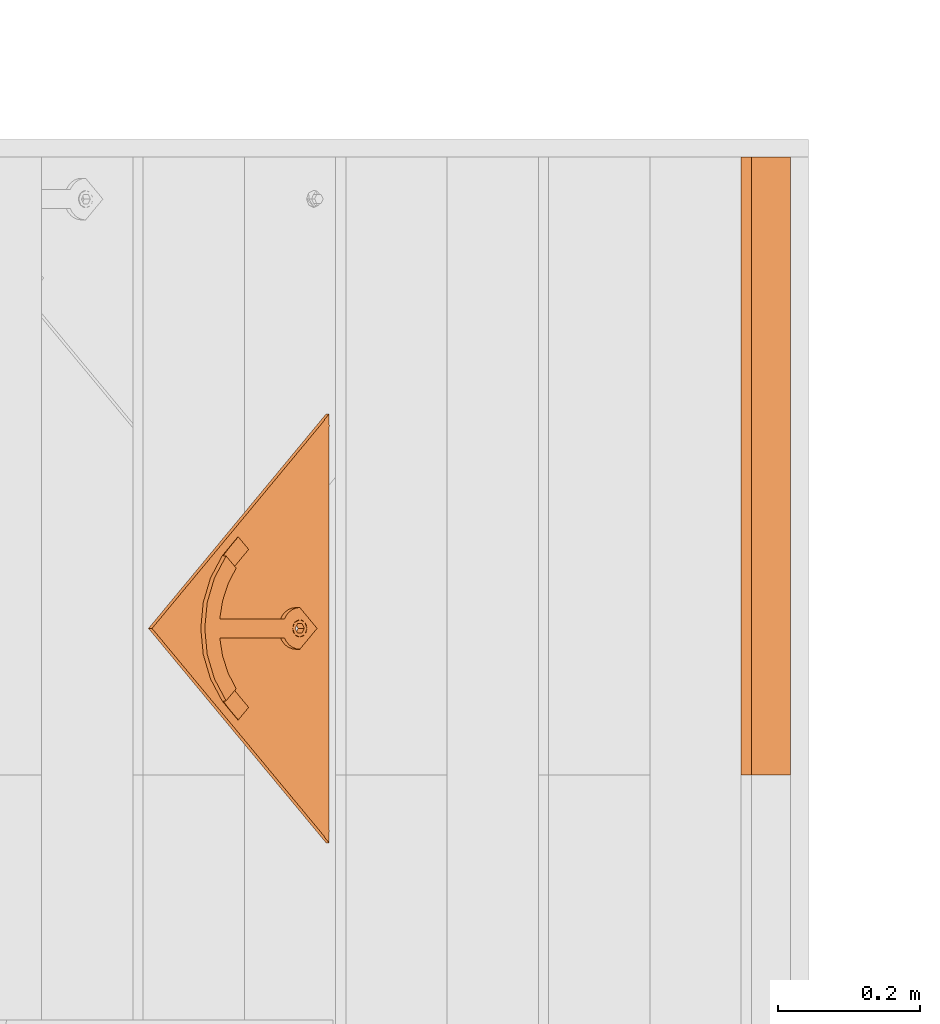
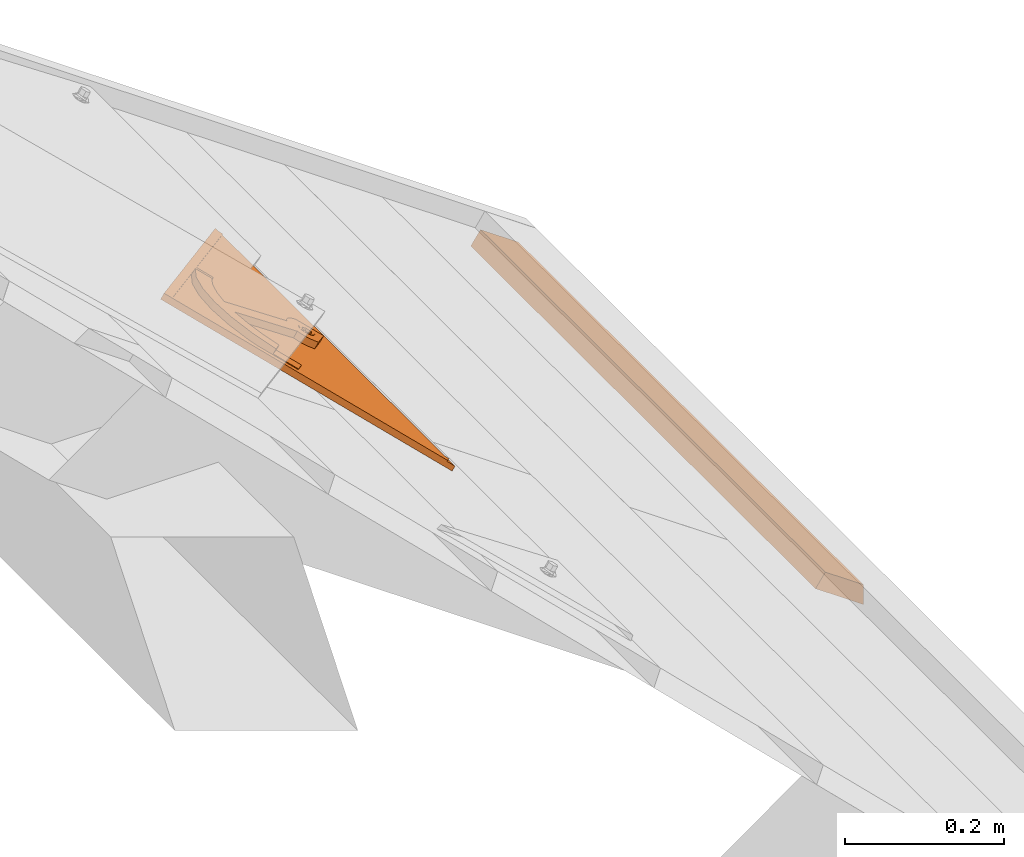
# One storey, part 122 of 133: 2 proxies, 1 element without a shape of its own.
"""IFC2X3 building model written with IfcOpenShell, lengths in millimetres."""

from ifc_helpers import new_model, entity, si_unit, converted_unit, derived_unit, direction, frame, origin, place, context, subcontext, project, spatial, polyline, outline, extrude, faceted_brep, source, transform, mapped, material, material_list, type_object, type_shapes, element, aggregate, save


model = new_model("IFC2X3")

# Units and contexts
model_context = context("Model", 3, precision=0.01, world=origin(), true_north=direction((6.12303176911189e-17, 1.0)))
body_context = subcontext(model_context, "Body", "Model", "MODEL_VIEW")
ifc_project = project(units=[si_unit("LENGTHUNIT", "METRE", prefix="MILLI"), si_unit("AREAUNIT", "SQUARE_METRE"), si_unit("VOLUMEUNIT", "CUBIC_METRE"), converted_unit("PLANEANGLEUNIT", "DEGREE", entity("IfcRatioMeasure", 0.0174532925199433), si_unit("PLANEANGLEUNIT", "RADIAN"), dimensions=[0, 0, 0, 0, 0, 0, 0]), si_unit("MASSUNIT", "GRAM", prefix="KILO"), derived_unit("MASSDENSITYUNIT", [(si_unit("MASSUNIT", "GRAM", prefix="KILO"), 1), (si_unit("LENGTHUNIT", "METRE"), -3)]), si_unit("TIMEUNIT", "SECOND"), si_unit("FREQUENCYUNIT", "HERTZ"), si_unit("THERMODYNAMICTEMPERATUREUNIT", "DEGREE_CELSIUS"), derived_unit("THERMALTRANSMITTANCEUNIT", [(si_unit("MASSUNIT", "GRAM", prefix="KILO"), 1), (si_unit("THERMODYNAMICTEMPERATUREUNIT", "KELVIN"), -1), (si_unit("TIMEUNIT", "SECOND"), -3)]), derived_unit("VOLUMETRICFLOWRATEUNIT", [(si_unit("LENGTHUNIT", "METRE"), 3), (si_unit("TIMEUNIT", "SECOND"), -1)]), si_unit("ELECTRICCURRENTUNIT", "AMPERE"), si_unit("ELECTRICVOLTAGEUNIT", "VOLT"), si_unit("POWERUNIT", "WATT"), si_unit("FORCEUNIT", "NEWTON", prefix="KILO"), si_unit("ILLUMINANCEUNIT", "LUX"), si_unit("LUMINOUSFLUXUNIT", "LUMEN"), si_unit("LUMINOUSINTENSITYUNIT", "CANDELA"), derived_unit("USERDEFINED", [(si_unit("MASSUNIT", "GRAM", prefix="KILO"), -1), (si_unit("LENGTHUNIT", "METRE"), -2), (si_unit("TIMEUNIT", "SECOND"), 3), (si_unit("LUMINOUSFLUXUNIT", "LUMEN"), 1)]), derived_unit("LINEARVELOCITYUNIT", [(si_unit("LENGTHUNIT", "METRE"), 1), (si_unit("TIMEUNIT", "SECOND"), -1)]), si_unit("PRESSUREUNIT", "PASCAL"), derived_unit("USERDEFINED", [(si_unit("LENGTHUNIT", "METRE"), -2), (si_unit("MASSUNIT", "GRAM", prefix="KILO"), 1), (si_unit("TIMEUNIT", "SECOND"), -2)])], contexts=[model_context])

# Site, building, storey
site_placement = place(None, origin())
site = spatial("IfcSite", under=ifc_project, at=site_placement, Name="Default", CompositionType="ELEMENT")
building_placement = place(site_placement, origin())
building = spatial("IfcBuilding", under=site, at=building_placement, CompositionType="ELEMENT")
storey_placement = place(building_placement, origin())
storey = spatial("IfcBuildingStorey", under=building, at=storey_placement, Name="Level 1", CompositionType="ELEMENT", Elevation=0.0)

# Assembly, proxy
assembly_placement = place(storey_placement, origin())
assembly = element("IfcElementAssembly", 1, at=assembly_placement, inside=storey, Name="Structural Framing Assembly:Roof Construction Assembly", ObjectType="Structural Framing Assembly:Roof Construction Assembly", AssemblyPlace="NOTDEFINED", PredefinedType="USERDEFINED")
ifc_material_1 = material(Name="Wood - Generic - Wood For Showcase")
building_element_proxy_type_1 = type_object("IfcBuildingElementProxyType", Name="Structural Framing 15", PredefinedType="NOTDEFINED", material=ifc_material_1)
shared_shape_1 = source(origin(), body_context, "Body", "SweptSolid", [
    extrude(outline(polyline([(-12.4999999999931, -38.2231230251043), (12.4999999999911, -38.2231230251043), (12.4999999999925, 29.4705287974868), (-12.499999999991, 46.975717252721), (-12.4999999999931, -38.2231230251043)])), frame((5101.25878028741, -6581.94919785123, 88.3155178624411), z_axis=(0.0, 1.0, 0.0), x_axis=(0.573576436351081, 0.0, 0.819152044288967)), (0.0, 0.0, 1.0), 869.999999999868),
])
type_shapes(building_element_proxy_type_1, [shared_shape_1])
proxy_1_placement = place(assembly_placement, frame((0.0, 9637.49999999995, 0.0)))
proxy_1 = element("IfcBuildingElementProxy", 2, at=proxy_1_placement, type_object=building_element_proxy_type_1, material=ifc_material_1, Name="Structural Framing 294:Structural Framing 15", ObjectType="Structural Framing 294:Structural Framing 15", context=body_context, shape_type="MappedRepresentation", body=[
    mapped(shared_shape_1, transform((0.0, 0.0, 0.0), scale=1.0)),
])
aggregate(assembly, [proxy_1])

# Proxy
ifc_material_2 = material(Name="Rubber - Sunstyle - Black")
ifc_material_3 = material(Name="Glass - Sunstyle - Tainted Black")
ifc_material_list_1 = material_list([ifc_material_2, ifc_material_3])
ifc_material_list_2 = material_list([ifc_material_2, ifc_material_3])
building_element_proxy_type_2 = type_object("IfcBuildingElementProxyType", Name="Shingle Bottom Small - Black", PredefinedType="NOTDEFINED", material=ifc_material_list_2)
shared_shape_2 = source(origin(), body_context, "Body", "Brep", [
    faceted_brep([(302.08842791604, 44.9093317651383, 22.0558382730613), (302.08842791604, 49.408700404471, 21.980485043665), (293.484723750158, 48.4726030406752, 21.9961623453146), (310.692132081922, 48.4726030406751, 21.9961623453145), (308.728656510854, 53.2419006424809, 21.9162884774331), (314.255903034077, 57.0751008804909, 21.8520919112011), (308.728656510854, 60.9083011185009, 21.7878953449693), (310.692132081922, 65.6775987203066, 21.7080214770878), (302.08842791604, 64.7415013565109, 21.7236987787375), (302.08842791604, 69.2408699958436, 21.6483455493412), (293.484723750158, 65.6775987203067, 21.708021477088), (295.448199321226, 60.908301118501, 21.7878953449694), (289.920952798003, 57.0751008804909, 21.8520919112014), (295.448199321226, 53.2419006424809, 21.9162884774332), (295.448199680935, 60.6403782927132, 5.79013870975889), (302.08842791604, 64.473578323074, 5.72594214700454), (295.448199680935, 52.9739782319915, 5.91853183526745), (302.08842791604, 49.1407782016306, 5.98272839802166), (308.728656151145, 52.9739782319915, 5.91853183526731), (308.728656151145, 60.6403782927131, 5.79013870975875), (293.484723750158, 48.2046804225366, 5.99840570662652), (302.08842791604, 44.6414091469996, 6.05808163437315), (289.920952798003, 56.8071782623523, 5.85433527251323), (293.484723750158, 65.4096761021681, 5.71026483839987), (302.08842791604, 68.972947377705, 5.65058891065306), (310.692132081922, 65.409676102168, 5.71026483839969), (314.255903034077, 56.8071782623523, 5.85433527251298), (310.692132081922, 48.2046804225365, 5.99840570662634)], [[[0, 1, 2]], [[1, 0, 3]], [[3, 4, 1]], [[4, 3, 5]], [[6, 4, 5]], [[5, 7, 6]], [[7, 8, 6]], [[8, 7, 9]], [[8, 9, 10]], [[10, 11, 8]], [[12, 11, 10]], [[2, 13, 12]], [[12, 13, 11]], [[13, 2, 1]], [[8, 11, 14, 15]], [[11, 13, 16, 14]], [[13, 1, 17, 16]], [[1, 4, 18, 17]], [[4, 6, 19, 18]], [[6, 8, 15, 19]], [[20, 17, 21]], [[17, 20, 16]], [[22, 16, 20]], [[14, 16, 22]], [[23, 14, 22]], [[15, 14, 23]], [[23, 24, 15]], [[24, 25, 15]], [[19, 15, 25]], [[19, 25, 26]], [[26, 18, 19]], [[26, 27, 18]], [[17, 18, 27]], [[27, 21, 17]], [[24, 23, 10, 9]], [[10, 23, 22, 12]], [[20, 21, 0, 2]], [[20, 2, 12, 22]], [[21, 27, 3, 0]], [[3, 27, 26, 5]], [[25, 24, 9, 7]], [[25, 7, 5, 26]]]),
    faceted_brep([(587.35835892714, 0.0, 12.5593198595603), (595.843045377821, 8.4846864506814, 12.4172224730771), (595.843045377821, 8.50980419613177, 13.9170121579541), (587.35835892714, 0.0251177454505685, 14.0591095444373), (302.088750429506, 285.189618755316, 7.7831033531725), (16.8191419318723, 0.0, 12.5593198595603), (8.33445548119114, 8.48468645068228, 12.4172224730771), (302.088750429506, 302.156612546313, 7.49894842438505), (302.088750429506, 302.181730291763, 8.9987381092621), (8.33445548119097, 8.50980419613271, 13.9170121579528), (16.8191419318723, 0.0251177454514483, 14.0591095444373), (302.088750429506, 285.214736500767, 9.28289303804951)], [[[0, 1, 2, 3]], [[1, 0, 4, 5, 6, 7]], [[2, 1, 7, 8]], [[3, 2, 8, 9, 10, 11]], [[0, 3, 11, 4]], [[5, 10, 9, 6]], [[8, 7, 6, 9]], [[4, 11, 10, 5]]]),
    faceted_brep([(302.088750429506, 302.156612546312, 7.49894842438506), (305.194256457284, 68.3255429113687, 11.4150370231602), (308.088427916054, 67.1269059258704, 11.4351112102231), (302.088427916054, 68.7343756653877, 11.4081900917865), (310.573709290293, 65.2201498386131, 11.4670446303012), (298.982599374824, 68.3255429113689, 11.4150370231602), (296.088427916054, 67.1269059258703, 11.4351112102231), (293.603146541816, 65.2201498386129, 11.4670446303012), (312.480732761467, 62.7352169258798, 11.5086610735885), (604.177500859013, 0.152567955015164, 12.5567647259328), (291.696123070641, 62.7352169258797, 11.5086610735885), (0.0, 0.152567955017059, 12.5567647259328), (290.497318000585, 59.8414512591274, 11.5571244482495), (290.088427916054, 56.7360581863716, 11.6091320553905), (290.497318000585, 53.6306651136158, 11.6611396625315), (291.696123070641, 50.7368994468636, 11.7096030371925), (293.603146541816, 48.2519665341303, 11.7512194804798), (296.088427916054, 46.3452104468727, 11.7831529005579), (298.982599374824, 45.1465734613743, 11.8032270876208), (302.088427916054, 44.7377407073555, 11.8100740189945), (313.679537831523, 59.8414512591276, 11.5571244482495), (314.088427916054, 56.7360581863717, 11.6091320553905), (313.679537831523, 53.6306651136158, 11.6611396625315), (312.480732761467, 50.7368994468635, 11.7096030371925), (310.573709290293, 48.2519665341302, 11.7512194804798), (308.088427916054, 46.3452104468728, 11.7831529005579), (305.194256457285, 45.1465734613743, 11.8032270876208), (0.0, 0.0269792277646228, 5.0578163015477), (290.088427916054, 56.6104694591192, 4.11018363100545), (290.497318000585, 53.5050763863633, 4.16219123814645), (290.497318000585, 59.7158625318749, 4.05817602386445), (291.696123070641, 50.6113107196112, 4.21065461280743), (291.696123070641, 62.6096281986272, 4.00971264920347), (302.088750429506, 302.031023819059, 0.0), (293.603146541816, 48.1263778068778, 4.25227105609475), (296.088427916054, 46.2196217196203, 4.28420447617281), (298.982599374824, 45.0209847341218, 4.30427866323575), (302.088427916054, 44.612151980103, 4.31112559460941), (604.177500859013, 0.0269792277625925, 5.05781630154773), (293.603146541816, 65.0945611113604, 3.96809620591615), (296.088427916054, 67.0013171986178, 3.93616278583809), (298.982599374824, 68.1999541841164, 3.91608859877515), (302.088427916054, 68.6087869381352, 3.90924166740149), (305.194256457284, 68.1999541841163, 3.91608859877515), (308.088427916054, 67.0013171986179, 3.93616278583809), (310.573709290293, 65.0945611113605, 3.96809620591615), (312.480732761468, 62.6096281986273, 4.00971264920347), (305.194256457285, 45.0209847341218, 4.30427866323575), (308.088427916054, 46.2196217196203, 4.28420447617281), (313.679537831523, 59.7158625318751, 4.05817602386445), (314.088427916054, 56.6104694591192, 4.11018363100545), (313.679537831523, 53.5050763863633, 4.16219123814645), (312.480732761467, 50.611310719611, 4.21065461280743), (310.573709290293, 48.1263778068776, 4.25227105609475)], [[[0, 1, 2]], [[1, 0, 3]], [[0, 2, 4]], [[5, 3, 0]], [[6, 5, 0]], [[0, 7, 6]], [[8, 0, 4]], [[0, 8, 9]], [[7, 0, 10]], [[0, 11, 10]], [[12, 10, 11]], [[11, 13, 12]], [[13, 11, 14]], [[15, 14, 11]], [[11, 16, 15]], [[17, 16, 11]], [[17, 11, 18]], [[19, 18, 11]], [[19, 11, 9]], [[9, 8, 20]], [[20, 21, 9]], [[21, 22, 9]], [[22, 23, 9]], [[9, 23, 24]], [[24, 25, 9]], [[25, 26, 9]], [[9, 26, 19]], [[27, 28, 29]], [[28, 27, 30]], [[27, 29, 31]], [[32, 30, 27]], [[32, 27, 33]], [[31, 34, 27]], [[34, 35, 27]], [[35, 36, 27]], [[36, 37, 27]], [[27, 37, 38]], [[33, 39, 32]], [[40, 39, 33]], [[41, 40, 33]], [[42, 41, 33]], [[33, 43, 42]], [[43, 33, 44]], [[45, 44, 33]], [[33, 46, 45]], [[46, 33, 38]], [[38, 37, 47]], [[47, 48, 38]], [[49, 46, 38]], [[38, 50, 49]], [[50, 38, 51]], [[52, 51, 38]], [[53, 52, 38]], [[53, 38, 48]], [[11, 0, 33, 27]], [[0, 9, 38, 33]], [[13, 28, 30, 12]], [[12, 30, 32, 10]], [[6, 7, 39, 40]], [[39, 7, 10, 32]], [[5, 6, 40, 41]], [[5, 41, 42, 3]], [[3, 42, 43, 1]], [[1, 43, 44, 2]], [[8, 4, 45, 46]], [[45, 4, 2, 44]], [[20, 8, 46, 49]], [[20, 49, 50, 21]], [[21, 50, 51, 22]], [[22, 51, 52, 23]], [[25, 24, 53, 48]], [[53, 24, 23, 52]], [[26, 25, 48, 47]], [[26, 47, 37, 19]], [[19, 37, 36, 18]], [[18, 36, 35, 17]], [[15, 16, 34, 31]], [[34, 16, 17, 35]], [[14, 15, 31, 29]], [[14, 29, 28, 13]], [[9, 11, 27, 38]]]),
    faceted_brep([(190.819384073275, 138.646056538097, 12.7376939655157), (217.144031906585, 164.967013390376, 12.2968834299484), (200.060856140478, 182.04779392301, 12.0108228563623), (193.80845410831, 176.686146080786, 12.100617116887), (187.837458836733, 171.012871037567, 12.1956303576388), (173.141714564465, 156.321247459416, 12.4416784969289), (431.035141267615, 156.321247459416, 12.4416784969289), (416.339396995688, 171.012871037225, 12.1956303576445), (410.36840172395, 176.686146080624, 12.1006171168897), (404.115999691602, 182.047793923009, 12.0108228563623), (387.031626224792, 164.968210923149, 12.2968633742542), (413.357471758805, 138.646056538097, 12.7376939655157), (296.088427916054, 67.294357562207, 21.4337091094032), (288.788427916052, 83.1076295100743, 21.1688761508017), (283.384321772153, 79.569581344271, 21.2281296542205), (293.603146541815, 65.3876014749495, 21.4656425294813), (298.982599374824, 68.4929945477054, 21.4136349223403), (302.088427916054, 68.9018273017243, 21.4067879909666), (315.388427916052, 83.107629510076, 21.1688761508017), (305.194256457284, 68.4929945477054, 21.4136349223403), (308.088427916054, 67.2943575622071, 21.4337091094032), (320.792534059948, 79.5695813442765, 21.2281296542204), (310.573709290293, 65.3876014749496, 21.4656425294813), (325.293078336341, 74.9365758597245, 21.3057209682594), (312.480732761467, 62.9026685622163, 21.5072589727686), (328.672647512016, 69.4324252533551, 21.3979017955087), (313.679537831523, 60.0089028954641, 21.5557223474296), (330.767980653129, 63.323025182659, 21.500219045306), (314.088427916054, 56.9035098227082, 21.6077299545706), (331.477855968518, 56.9035098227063, 21.6077299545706), (313.679537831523, 53.7981167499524, 21.6597375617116), (312.480732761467, 50.9043510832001, 21.7082009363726), (310.573709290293, 48.4194181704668, 21.7498173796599), (302.08842791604, 27.5182024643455, 22.0998607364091), (308.088427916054, 46.5126620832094, 21.7817507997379), (305.194256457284, 45.314025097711, 21.8018249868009), (302.088427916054, 44.9051923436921, 21.8086719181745), (298.982599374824, 45.314025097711, 21.8018249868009), (296.088427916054, 46.5126620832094, 21.7817507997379), (293.603146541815, 48.4194181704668, 21.7498173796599), (272.69899986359, 56.903509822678, 21.6077299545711), (291.696123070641, 50.9043510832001, 21.7082009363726), (290.497318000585, 53.7981167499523, 21.6597375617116), (290.088427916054, 56.9035098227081, 21.6077299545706), (273.408875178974, 63.3230251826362, 21.5002190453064), (290.497318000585, 60.008902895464, 21.5557223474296), (275.504208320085, 69.4324252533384, 21.397901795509), (291.696123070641, 62.9026685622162, 21.5072589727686), (278.883777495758, 74.9365758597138, 21.3057209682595), (288.788427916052, 192.984512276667, 19.3287117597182), (315.388427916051, 192.984512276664, 19.3287117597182), (302.088427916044, 218.456125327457, 18.9021256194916), (338.579268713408, 214.282159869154, 18.9720291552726), (340.858170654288, 188.169632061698, 19.4093490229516), (373.184513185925, 201.975945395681, 19.1781276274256), (365.012761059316, 178.765998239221, 19.5668364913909), (404.115999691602, 182.173382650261, 19.5097712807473), (387.032823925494, 165.092602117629, 19.7958318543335), (265.59758711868, 214.28215986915, 18.9720291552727), (263.318685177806, 188.169632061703, 19.4093490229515), (230.992342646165, 201.975945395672, 19.1781276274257), (239.164094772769, 178.765998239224, 19.5668364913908), (200.06085614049, 182.173382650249, 19.5097712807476), (217.144031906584, 165.092602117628, 19.7958318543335), (302.08842791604, 27.3507508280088, 12.1012628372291), (302.088427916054, 44.7377407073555, 11.8100740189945), (305.194256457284, 45.1465734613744, 11.8032270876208), (298.982599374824, 45.1465734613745, 11.8032270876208), (308.088427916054, 46.3452104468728, 11.7831529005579), (310.573709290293, 48.2519665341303, 11.7512194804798), (331.477855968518, 56.7360581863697, 11.6091320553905), (296.088427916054, 46.3452104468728, 11.7831529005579), (293.603146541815, 48.2519665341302, 11.7512194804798), (272.69899986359, 56.7360581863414, 11.609132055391), (291.696123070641, 50.7368994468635, 11.7096030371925), (290.497318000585, 53.6306651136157, 11.6611396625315), (290.088427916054, 56.7360581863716, 11.6091320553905), (273.408875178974, 63.1555735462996, 11.5016211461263), (290.497318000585, 59.8414512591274, 11.5571244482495), (275.504208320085, 69.2649736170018, 11.3993038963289), (291.696123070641, 62.7352169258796, 11.5086610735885), (278.883777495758, 74.7691242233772, 11.3071230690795), (293.603146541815, 65.2201498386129, 11.4670446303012), (283.384321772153, 79.4021297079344, 11.2295317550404), (296.088427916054, 67.1269059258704, 11.4351112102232), (288.788427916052, 82.9401778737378, 11.1702782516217), (298.982599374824, 68.3255429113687, 11.4150370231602), (302.088427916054, 68.7343756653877, 11.4081900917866), (315.388427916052, 82.9401778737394, 11.1702782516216), (288.788427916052, 192.81706064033, 9.33011386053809), (315.388427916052, 192.817060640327, 9.33011386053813), (302.088427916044, 218.28867369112, 8.90352772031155), (265.59758711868, 214.114708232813, 8.97343125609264), (263.318685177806, 188.002180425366, 9.41075112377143), (230.992342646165, 201.808493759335, 9.17952972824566), (239.164094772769, 178.598546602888, 9.56823859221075), (200.06085614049, 182.005931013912, 9.51117338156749), (217.145229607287, 164.926348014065, 9.79721389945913), (193.80845410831, 176.644283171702, 9.60096764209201), (187.837458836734, 170.971008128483, 9.69598088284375), (190.819384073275, 138.604193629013, 10.2380444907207), (173.141714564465, 156.279384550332, 9.94202902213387), (338.579268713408, 214.114708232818, 8.97343125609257), (340.858170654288, 188.002180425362, 9.41075112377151), (373.184513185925, 201.808493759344, 9.17952972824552), (365.012761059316, 178.598546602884, 9.5682385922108), (404.115999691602, 182.005931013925, 9.51117338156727), (387.032823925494, 164.925150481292, 9.79723395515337), (410.36840172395, 176.64428317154, 9.60096764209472), (416.339396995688, 170.971008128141, 9.69598088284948), (413.357471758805, 138.604193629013, 10.2380444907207), (431.035141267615, 156.279384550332, 9.94202902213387), (305.194256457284, 68.3255429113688, 11.4150370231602), (308.088427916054, 67.1269059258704, 11.4351112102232), (320.792534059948, 79.4021297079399, 11.2295317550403), (310.573709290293, 65.220149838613, 11.4670446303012), (325.293078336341, 74.7691242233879, 11.3071230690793), (312.480732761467, 62.7352169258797, 11.5086610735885), (328.672647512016, 69.2649736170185, 11.3993038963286), (313.679537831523, 59.8414512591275, 11.5571244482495), (330.767980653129, 63.1555735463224, 11.5016211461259), (314.088427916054, 56.7360581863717, 11.6091320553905), (312.480732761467, 50.7368994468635, 11.7096030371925), (313.679537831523, 53.6306651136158, 11.6611396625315)], [[[0, 1, 2, 3, 4, 5]], [[6, 7, 8, 9, 10, 11]], [[12, 13, 14]], [[12, 14, 15]], [[16, 13, 12]], [[17, 13, 16]], [[18, 13, 17]], [[17, 19, 18]], [[19, 20, 18]], [[20, 21, 18]], [[21, 20, 22]], [[21, 22, 23]], [[24, 23, 22]], [[23, 24, 25]], [[24, 26, 25]], [[27, 25, 26]], [[26, 28, 27]], [[29, 27, 28]], [[28, 30, 29]], [[30, 31, 29]], [[29, 31, 32]], [[32, 33, 29]], [[32, 34, 33]], [[35, 33, 34]], [[36, 33, 35]], [[33, 36, 37]], [[38, 33, 37]], [[38, 39, 33]], [[40, 33, 39]], [[41, 40, 39]], [[41, 42, 40]], [[42, 43, 40]], [[43, 44, 40]], [[45, 44, 43]], [[45, 46, 44]], [[45, 47, 46]], [[48, 46, 47]], [[48, 47, 15]], [[48, 15, 14]], [[18, 49, 13]], [[50, 49, 18]], [[51, 49, 50]], [[50, 52, 51]], [[50, 53, 52]], [[52, 53, 54]], [[53, 55, 54]], [[56, 54, 55]], [[57, 56, 55]], [[58, 49, 51]], [[49, 58, 59]], [[60, 59, 58]], [[60, 61, 59]], [[61, 60, 62]], [[62, 63, 61]], [[64, 65, 66]], [[65, 64, 67]], [[64, 66, 68]], [[68, 69, 64]], [[64, 69, 70]], [[71, 67, 64]], [[71, 64, 72]], [[72, 64, 73]], [[73, 74, 72]], [[74, 73, 75]], [[75, 73, 76]], [[77, 76, 73]], [[76, 77, 78]], [[78, 77, 79]], [[80, 78, 79]], [[81, 80, 79]], [[82, 80, 81]], [[83, 82, 81]], [[83, 84, 82]], [[85, 84, 83]], [[85, 86, 84]], [[87, 86, 85]], [[88, 87, 85]], [[89, 88, 85]], [[88, 89, 90]], [[89, 91, 90]], [[91, 89, 92]], [[93, 92, 89]], [[92, 93, 94]], [[95, 94, 93]], [[96, 94, 95]], [[95, 97, 96]], [[97, 98, 96]], [[98, 97, 99]], [[97, 100, 99]], [[99, 100, 101]], [[90, 91, 102]], [[103, 90, 102]], [[103, 102, 104]], [[105, 103, 104]], [[106, 105, 104]], [[107, 105, 106]], [[106, 108, 107]], [[109, 107, 108]], [[110, 107, 109]], [[109, 111, 110]], [[112, 87, 88]], [[113, 112, 88]], [[114, 113, 88]], [[115, 113, 114]], [[115, 114, 116]], [[116, 117, 115]], [[117, 116, 118]], [[118, 119, 117]], [[120, 119, 118]], [[121, 120, 70]], [[120, 121, 119]], [[70, 69, 122]], [[122, 123, 70]], [[123, 121, 70]], [[13, 49, 89, 85]], [[14, 13, 85, 83]], [[48, 14, 83, 81]], [[81, 79, 46, 48]], [[44, 46, 79, 77]], [[40, 44, 77, 73]], [[33, 40, 73, 64]], [[0, 5, 101, 100]], [[29, 33, 64, 70]], [[6, 11, 110, 111]], [[27, 29, 70, 120]], [[25, 27, 120, 118]], [[118, 116, 23, 25]], [[21, 23, 116, 114]], [[18, 21, 114, 88]], [[50, 18, 88, 90]], [[9, 106, 104, 54, 56]], [[52, 54, 104, 102]], [[51, 52, 102, 91]], [[58, 51, 91, 92]], [[94, 96, 2, 62, 60]], [[60, 58, 92, 94]], [[43, 76, 78, 45]], [[45, 78, 80, 47]], [[12, 15, 82, 84]], [[80, 82, 15, 47]], [[16, 12, 84, 86]], [[87, 17, 16, 86]], [[19, 112, 113, 20]], [[20, 113, 115, 22]], [[26, 24, 117, 119]], [[115, 117, 24, 22]], [[28, 26, 119, 121]], [[19, 17, 87, 112]], [[28, 121, 123, 30]], [[30, 123, 122, 31]], [[34, 32, 69, 68]], [[122, 69, 32, 31]], [[35, 34, 68, 66]], [[65, 36, 35, 66]], [[37, 67, 71, 38]], [[38, 71, 72, 39]], [[42, 41, 74, 75]], [[72, 74, 41, 39]], [[43, 42, 75, 76]], [[37, 36, 65, 67]], [[7, 6, 111, 109]], [[7, 109, 108, 8]], [[108, 106, 9, 8]], [[11, 10, 107, 110]], [[1, 0, 100, 97]], [[2, 96, 98, 3]], [[98, 99, 4, 3]], [[5, 4, 99, 101]], [[63, 62, 2, 1]], [[56, 57, 10]], [[10, 9, 56]], [[1, 95, 61, 63]], [[1, 97, 95]], [[93, 89, 49, 59]], [[95, 93, 59, 61]], [[90, 103, 53, 50]], [[103, 105, 55, 53]], [[10, 57, 55]], [[107, 10, 105]], [[55, 105, 10]]]),
])
type_shapes(building_element_proxy_type_2, [shared_shape_2])
proxy_2_placement = place(storey_placement, frame((4475.24953124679, 2959.61156183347, 539.79194219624), z_axis=(0.573576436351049, 0.0, 0.81915204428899), x_axis=(0.0, 1.0, 0.0)))
element("IfcBuildingElementProxy", 3, at=proxy_2_placement, inside=storey, type_object=building_element_proxy_type_2, material=ifc_material_list_1, Name="Roofing_Panels_SunStyle_Tile_Shingle-Bottom-Small:Shingle Bottom Small - Black", ObjectType="Roofing_Panels_SunStyle_Tile_Shingle-Bottom-Small:Shingle Bottom Small - Black", context=body_context, shape_type="MappedRepresentation", body=[
    mapped(shared_shape_2, transform((0.0, 0.0, 0.0), scale=1.0)),
])

save(model, "model.ifc")
